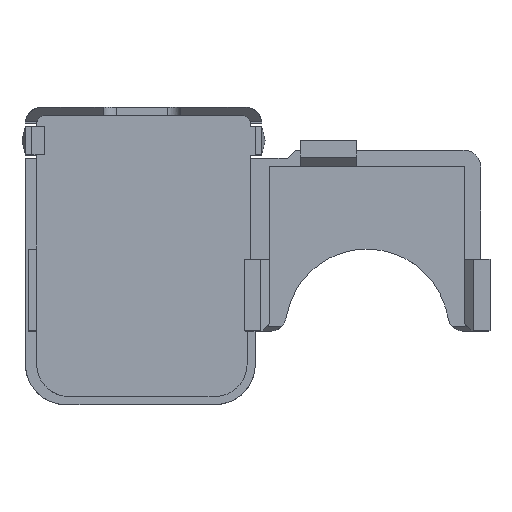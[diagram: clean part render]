
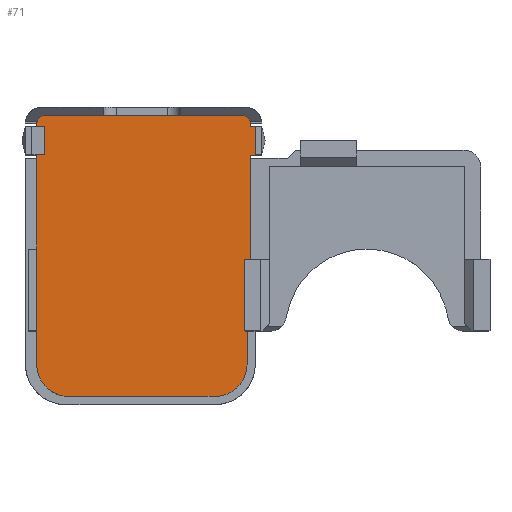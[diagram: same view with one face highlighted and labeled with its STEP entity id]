
A CAD part, top view. The second image highlights one B-rep face of the part: STEP entity #71.
In plain terms, the highlighted planar face has unit normal (0, 0, 1).
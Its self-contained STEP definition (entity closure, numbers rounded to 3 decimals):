
#71=ADVANCED_FACE($,(#194),#1569,.T.);
#194=FACE_OUTER_BOUND($,#317,.T.);
#317=EDGE_LOOP($,(#648,#649,#650,#651,#652,#653,#654,#655,#656,#657,#658,
#659,#660,#661));
#648=ORIENTED_EDGE($,*,*,#1292,.T.);
#649=ORIENTED_EDGE($,*,*,#1298,.T.);
#650=ORIENTED_EDGE($,*,*,#1252,.T.);
#651=ORIENTED_EDGE($,*,*,#1060,.T.);
#652=ORIENTED_EDGE($,*,*,#1240,.T.);
#653=ORIENTED_EDGE($,*,*,#1239,.T.);
#654=ORIENTED_EDGE($,*,*,#1284,.T.);
#655=ORIENTED_EDGE($,*,*,#1290,.T.);
#656=ORIENTED_EDGE($,*,*,#1209,.T.);
#657=ORIENTED_EDGE($,*,*,#1194,.T.);
#658=ORIENTED_EDGE($,*,*,#1195,.T.);
#659=ORIENTED_EDGE($,*,*,#1196,.T.);
#660=ORIENTED_EDGE($,*,*,#1225,.T.);
#661=ORIENTED_EDGE($,*,*,#1224,.T.);
#1060=EDGE_CURVE($,#1344,#1350,#1610,.T.);
#1194=EDGE_CURVE($,#1434,#1435,#1632,.T.);
#1195=EDGE_CURVE($,#1435,#1436,#1821,.T.);
#1196=EDGE_CURVE($,#1436,#1437,#1822,.T.);
#1209=EDGE_CURVE($,#1438,#1434,#1832,.T.);
#1224=EDGE_CURVE($,#1447,#1484,#1847,.T.);
#1225=EDGE_CURVE($,#1437,#1447,#1848,.T.);
#1239=EDGE_CURVE($,#1455,#1480,#1862,.T.);
#1240=EDGE_CURVE($,#1350,#1455,#1863,.T.);
#1252=EDGE_CURVE($,#1462,#1344,#1874,.T.);
#1284=EDGE_CURVE($,#1480,#1481,#1900,.T.);
#1290=EDGE_CURVE($,#1481,#1438,#1906,.T.);
#1292=EDGE_CURVE($,#1484,#1483,#1908,.T.);
#1298=EDGE_CURVE($,#1483,#1462,#1914,.T.);
#1344=VERTEX_POINT($,#4184);
#1350=VERTEX_POINT($,#4190);
#1434=VERTEX_POINT($,#4274);
#1435=VERTEX_POINT($,#4275);
#1436=VERTEX_POINT($,#4276);
#1437=VERTEX_POINT($,#4277);
#1438=VERTEX_POINT($,#4278);
#1447=VERTEX_POINT($,#4287);
#1455=VERTEX_POINT($,#4295);
#1462=VERTEX_POINT($,#4302);
#1480=VERTEX_POINT($,#4320);
#1481=VERTEX_POINT($,#4321);
#1483=VERTEX_POINT($,#4323);
#1484=VERTEX_POINT($,#4324);
#1569=PLANE($,#2049);
#1610=(
BOUNDED_CURVE()
B_SPLINE_CURVE(2,(#2326,#2327,#2328,#2329,#2330,#2331,#2332),.UNSPECIFIED.,
.F.,.F.)
B_SPLINE_CURVE_WITH_KNOTS((3,2,2,3),(34.97,38.112,62.582,
65.723),.UNSPECIFIED.)
CURVE()
GEOMETRIC_REPRESENTATION_ITEM()
RATIONAL_B_SPLINE_CURVE((1.,0.707,1.,1.,1.,0.707,
1.))
REPRESENTATION_ITEM($)
);
#1632=(
BOUNDED_CURVE()
B_SPLINE_CURVE(2,(#2876,#2877,#2878,#2879,#2880,#2881,#2882,#2883,#2884,
#2885,#2886),.UNSPECIFIED.,.F.,.F.)
B_SPLINE_CURVE_WITH_KNOTS((3,2,2,2,2,3),(204.083,229.623,
237.477,255.547,263.401,267.521),.UNSPECIFIED.)
CURVE()
GEOMETRIC_REPRESENTATION_ITEM()
RATIONAL_B_SPLINE_CURVE((1.,1.,1.,0.707,1.,1.,1.,0.707,
1.,1.,1.))
REPRESENTATION_ITEM($)
);
#1821=B_SPLINE_CURVE_WITH_KNOTS($,1,(#2887,#2888),.UNSPECIFIED.,.F.,.F.,
(2,2),(267.521,268.087),.UNSPECIFIED.);
#1822=B_SPLINE_CURVE_WITH_KNOTS($,1,(#2889,#2890),.UNSPECIFIED.,.F.,.F.,
(2,2),(268.087,289.107),.UNSPECIFIED.);
#1832=B_SPLINE_CURVE_WITH_KNOTS($,3,(#2935,#2936,#2937,#2938),.UNSPECIFIED.,
.F.,.F.,(4,4),(0.,0.4),.UNSPECIFIED.);
#1847=B_SPLINE_CURVE_WITH_KNOTS($,3,(#3037,#3038,#3039,#3040),.UNSPECIFIED.,
.F.,.F.,(4,4),(0.,0.6),.UNSPECIFIED.);
#1848=B_SPLINE_CURVE_WITH_KNOTS($,3,(#3041,#3042,#3043,#3044),.UNSPECIFIED.,
.F.,.F.,(4,4),(0.,0.4),.UNSPECIFIED.);
#1862=B_SPLINE_CURVE_WITH_KNOTS($,3,(#3087,#3088,#3089,#3090),.UNSPECIFIED.,
.F.,.F.,(4,4),(0.,0.6),.UNSPECIFIED.);
#1863=B_SPLINE_CURVE_WITH_KNOTS($,3,(#3091,#3092,#3093,#3094),.UNSPECIFIED.,
.F.,.F.,(4,4),(0.,0.4),.UNSPECIFIED.);
#1874=B_SPLINE_CURVE_WITH_KNOTS($,3,(#3133,#3134,#3135,#3136),.UNSPECIFIED.,
.F.,.F.,(4,4),(0.,0.4),.UNSPECIFIED.);
#1900=B_SPLINE_CURVE_WITH_KNOTS($,3,(#3427,#3428,#3429,#3430),.UNSPECIFIED.,
.F.,.F.,(4,4),(-3.5,0.),.UNSPECIFIED.);
#1906=B_SPLINE_CURVE_WITH_KNOTS($,3,(#3443,#3444,#3445,#3446),.UNSPECIFIED.,
.F.,.F.,(4,4),(-0.6,0.),.UNSPECIFIED.);
#1908=B_SPLINE_CURVE_WITH_KNOTS($,3,(#3451,#3452,#3453,#3454),.UNSPECIFIED.,
.F.,.F.,(4,4),(0.,3.5),.UNSPECIFIED.);
#1914=B_SPLINE_CURVE_WITH_KNOTS($,3,(#3467,#3468,#3469,#3470),.UNSPECIFIED.,
.F.,.F.,(4,4),(-0.6,0.),.UNSPECIFIED.);
#2049=AXIS2_PLACEMENT_3D($,#3677,#2138,$);
#2138=DIRECTION($,(0.,0.,1.));
#2326=CARTESIAN_POINT($,(56.66,38.42,-5.));
#2327=CARTESIAN_POINT($,(56.66,39.42,-5.));
#2328=CARTESIAN_POINT($,(55.66,39.42,-5.));
#2329=CARTESIAN_POINT($,(43.425,39.42,-5.));
#2330=CARTESIAN_POINT($,(31.19,39.42,-5.));
#2331=CARTESIAN_POINT($,(30.19,39.42,-5.));
#2332=CARTESIAN_POINT($,(30.19,38.42,-5.));
#2876=CARTESIAN_POINT($,(30.19,34.12,-5.));
#2877=CARTESIAN_POINT($,(30.19,21.35,-5.));
#2878=CARTESIAN_POINT($,(30.19,8.58,-5.));
#2879=CARTESIAN_POINT($,(30.19,4.58,-5.));
#2880=CARTESIAN_POINT($,(34.19,4.58,-5.));
#2881=CARTESIAN_POINT($,(43.225,4.58,-5.));
#2882=CARTESIAN_POINT($,(52.26,4.58,-5.));
#2883=CARTESIAN_POINT($,(56.26,4.58,-5.));
#2884=CARTESIAN_POINT($,(56.26,8.58,-5.));
#2885=CARTESIAN_POINT($,(56.26,10.64,-5.));
#2886=CARTESIAN_POINT($,(56.26,12.7,-5.));
#2887=CARTESIAN_POINT($,(56.26,12.7,-5.));
#2888=CARTESIAN_POINT($,(56.66,13.1,-5.));
#2889=CARTESIAN_POINT($,(56.66,13.1,-5.));
#2890=CARTESIAN_POINT($,(56.66,34.12,-5.));
#2935=CARTESIAN_POINT($,(30.19,34.52,-5.));
#2936=CARTESIAN_POINT($,(30.19,34.387,-5.));
#2937=CARTESIAN_POINT($,(30.19,34.253,-5.));
#2938=CARTESIAN_POINT($,(30.19,34.12,-5.));
#3037=CARTESIAN_POINT($,(56.66,34.52,-5.));
#3038=CARTESIAN_POINT($,(56.86,34.52,-5.));
#3039=CARTESIAN_POINT($,(57.06,34.52,-5.));
#3040=CARTESIAN_POINT($,(57.26,34.52,-5.));
#3041=CARTESIAN_POINT($,(56.66,34.12,-5.));
#3042=CARTESIAN_POINT($,(56.66,34.253,-5.));
#3043=CARTESIAN_POINT($,(56.66,34.387,-5.));
#3044=CARTESIAN_POINT($,(56.66,34.52,-5.));
#3087=CARTESIAN_POINT($,(30.19,38.02,-5.));
#3088=CARTESIAN_POINT($,(29.99,38.02,-5.));
#3089=CARTESIAN_POINT($,(29.79,38.02,-5.));
#3090=CARTESIAN_POINT($,(29.59,38.02,-5.));
#3091=CARTESIAN_POINT($,(30.19,38.42,-5.));
#3092=CARTESIAN_POINT($,(30.19,38.287,-5.));
#3093=CARTESIAN_POINT($,(30.19,38.153,-5.));
#3094=CARTESIAN_POINT($,(30.19,38.02,-5.));
#3133=CARTESIAN_POINT($,(56.66,38.02,-5.));
#3134=CARTESIAN_POINT($,(56.66,38.153,-5.));
#3135=CARTESIAN_POINT($,(56.66,38.287,-5.));
#3136=CARTESIAN_POINT($,(56.66,38.42,-5.));
#3427=CARTESIAN_POINT($,(29.59,38.02,-5.));
#3428=CARTESIAN_POINT($,(29.59,36.853,-5.));
#3429=CARTESIAN_POINT($,(29.59,35.687,-5.));
#3430=CARTESIAN_POINT($,(29.59,34.52,-5.));
#3443=CARTESIAN_POINT($,(29.59,34.52,-5.));
#3444=CARTESIAN_POINT($,(29.79,34.52,-5.));
#3445=CARTESIAN_POINT($,(29.99,34.52,-5.));
#3446=CARTESIAN_POINT($,(30.19,34.52,-5.));
#3451=CARTESIAN_POINT($,(57.26,34.52,-5.));
#3452=CARTESIAN_POINT($,(57.26,35.687,-5.));
#3453=CARTESIAN_POINT($,(57.26,36.853,-5.));
#3454=CARTESIAN_POINT($,(57.26,38.02,-5.));
#3467=CARTESIAN_POINT($,(57.26,38.02,-5.));
#3468=CARTESIAN_POINT($,(57.06,38.02,-5.));
#3469=CARTESIAN_POINT($,(56.86,38.02,-5.));
#3470=CARTESIAN_POINT($,(56.66,38.02,-5.));
#3677=CARTESIAN_POINT($,(29.59,4.232,-5.));
#4184=CARTESIAN_POINT($,(56.66,38.42,-5.));
#4190=CARTESIAN_POINT($,(30.19,38.42,-5.));
#4274=CARTESIAN_POINT($,(30.19,34.12,-5.));
#4275=CARTESIAN_POINT($,(56.26,12.7,-5.));
#4276=CARTESIAN_POINT($,(56.66,13.1,-5.));
#4277=CARTESIAN_POINT($,(56.66,34.12,-5.));
#4278=CARTESIAN_POINT($,(30.19,34.52,-5.));
#4287=CARTESIAN_POINT($,(56.66,34.52,-5.));
#4295=CARTESIAN_POINT($,(30.19,38.02,-5.));
#4302=CARTESIAN_POINT($,(56.66,38.02,-5.));
#4320=CARTESIAN_POINT($,(29.59,38.02,-5.));
#4321=CARTESIAN_POINT($,(29.59,34.52,-5.));
#4323=CARTESIAN_POINT($,(57.26,38.02,-5.));
#4324=CARTESIAN_POINT($,(57.26,34.52,-5.));
